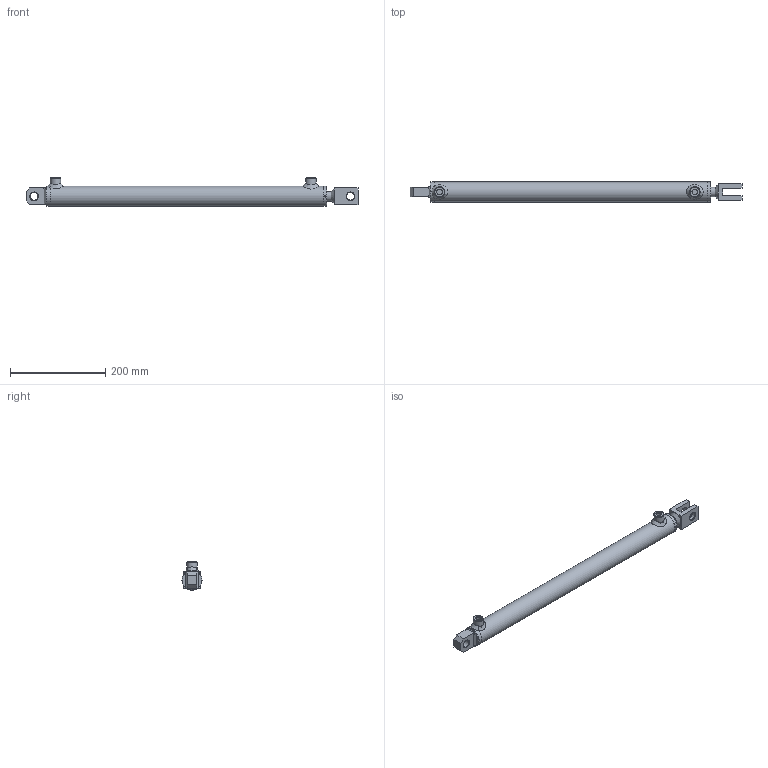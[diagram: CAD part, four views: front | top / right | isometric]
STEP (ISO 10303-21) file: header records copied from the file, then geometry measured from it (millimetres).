
FILE_DESCRIPTION( ( 'Unknown' ), '1' );
FILE_NAME( 'E:/LIBRERIA_3d/CILINDRI/HM5/HM5032200500.stp', 'Unknown', ( 'Unknown' ), ( 'Unknown' ), 'PSStep 17.0.49', 'Unknown', ' ' );
FILE_SCHEMA( ( 'AUTOMOTIVE_DESIGN { 1 0 10303 214 1 1 1 1 }' ) );
Length unit declared in the file: millimetre
Products named in the file (35): CT00032015; STFR032050500-oa8; Saldatura d'angolo 1-oa6; MAT_PRIMA_TUBO_FT04203200-oa7; CBSC220400; CG04203220; HM0032200500; Saldatura con preparazione 1-oa4; Saldatura d'angolo 1-oa5; CF00032042; CBS0400000; CDA0001415; APG0400000; SBL0200320500; Assem1; CSCS004010; CFS0000016; COF1600000; Saldatura con preparazione 1-oa0; Saldatura d'angolo 1-oa1; Saldatura d'angolo 2-oa2; Saldatura d'angolo 3-oa3
Assembly tree (22 placements, depth 4):
  Saldatura d'angolo 1-oa6
  Saldatura d'angolo 1-oa6
  Saldatura d'angolo 1-oa5
  Saldatura d'angolo 1-oa5
  Assem1
    CSCS004010  x2
    CFS0000016
    COF1600000
    Saldatura con preparazione 1-oa0
    Saldatura con preparazione 1-oa0
    HM0032200500
      Saldatura con preparazione 1-oa4
      Saldatura con preparazione 1-oa4
      CF00032042
      CBS0400000
      CDA0001415
      APG0400000  x2
      SBL0200320500
      CG04203220
        CG04203220
      CT00032015
        CT00032015
      STFR032050500-oa8
        MAT_PRIMA_TUBO_FT04203200-oa7
        CBSC220400
Bounding box: 697 x 42 x 60 mm (x, y, z)
Volume: 636335.2 mm3; surface area: 237461.6 mm2
Topology: 32 solids, 32 shells, 329 faces, 725 edges, 467 vertices
Faces by surface type: plane 118, cylinder 69, cone 60, bspline 50, torus 32
Full cylindrical faces by diameter (mm): 3 x2, 4 x2, 4.25 x3, 5 x2, 11.445 x2, 12 x2, 13.1 x2, 14 x2, 15 x3, 16.2 x3, 19.5 x1, 20 x10, 22 x4, 23 x1, 24 x1, 28 x3, 28.3 x1, 28.6 x1, 31.4 x2, 31.9 x1, 32 x1, 32.3 x1, 32.5 x1, 32.6 x1, 33 x1, 34 x3, 34.376 x1, 36 x1, 42 x5
Entity records: 13530 total; most frequent: CARTESIAN_POINT 5153, DIRECTION 1136, ORIENTED_EDGE 980, AXIS2_PLACEMENT_3D 508, EDGE_LOOP 506, EDGE_CURVE 490, FACE_OUTER_BOUND 412, VERTEX_POINT 393
